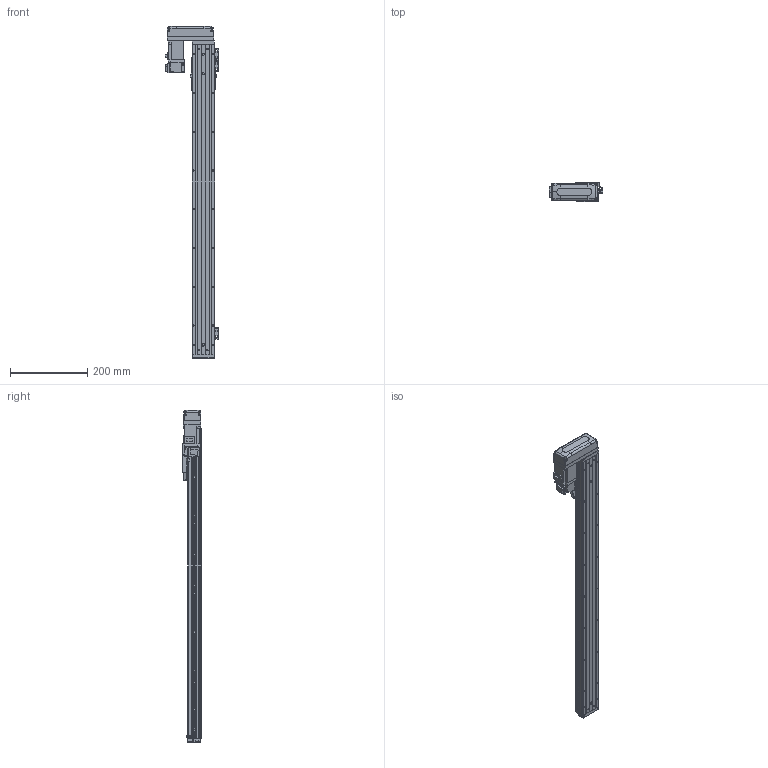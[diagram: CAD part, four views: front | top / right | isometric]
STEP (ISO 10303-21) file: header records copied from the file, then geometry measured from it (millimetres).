
FILE_DESCRIPTION (( 'STEP AP203' ), '1' );
FILE_NAME ('CTHA50-650-BR-M10-C4L.step', '2022-03-19T06:07:58', ( '微软用户' ), ( '微软中国' ), 'SwSTEP 2.0', 'SolidWorks 2020', '' );
FILE_SCHEMA (( 'CONFIG_CONTROL_DESIGN' ));
Length unit declared in the file: millimetre
Products named in the file (20): CTHA60-021; CTHA60-033; EE_SX911P_R; HG-KR13（三菱）; GBT 70.1-M3×15; GBT77-2000 M3×3; CTHA50-002; CTHA50-650-BR-M10-C4L; GBT 70.1-M3℅6; CTHA50-030; KTHA50-001_800; CTHA60-017; CTHA50-031; KTHA50-004; GBT 70.1-M4×12; GBT 70.3-M3℅6; KTHA50-005; CTHA60-016; CTHA50-015-2_CTHA60-015-2; GB¨uT 70.2-M3¡Á6_M3¡Á6
Assembly tree (60 placements, depth 2):
  CTHA50-650-BR-M10-C4L
    KTHA50-001_800
    KTHA50-004
    KTHA50-005
    GB¨uT 70.2-M3¡Á6_M3¡Á6  x10
    EE_SX911P_R  x3
    GBT77-2000 M3×3  x6
    GBT 70.1-M3℅6  x6
    CTHA60-017  x3
    GBT 70.1-M4×12  x10
    CTHA60-016  x2
    CTHA60-021  x2
    HG-KR13（三菱）
    CTHA50-002
    CTHA50-030  x2
    CTHA50-031
    GBT 70.3-M3℅6  x4
    CTHA50-015-2_CTHA60-015-2
    CTHA60-033
    GBT 70.1-M3×15  x4
Bounding box: 139.12 x 48 x 857 mm (x, y, z)
Volume: 1601211.5 mm3; surface area: 407791.3 mm2
Topology: 62 solids, 62 shells, 2573 faces, 6135 edges, 3762 vertices
Faces by surface type: plane 1458, cylinder 600, cone 357, torus 108, bspline 26, sphere 24
Entity records: 44623 total; most frequent: CARTESIAN_POINT 8219, DIRECTION 6975, ORIENTED_EDGE 6778, EDGE_CURVE 3389, LINE 2379, VECTOR 2379, AXIS2_PLACEMENT_3D 2298, VERTEX_POINT 2136
